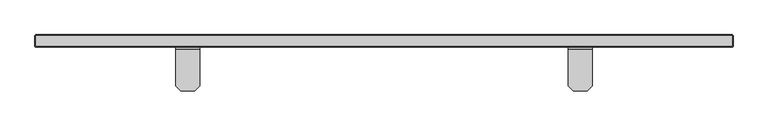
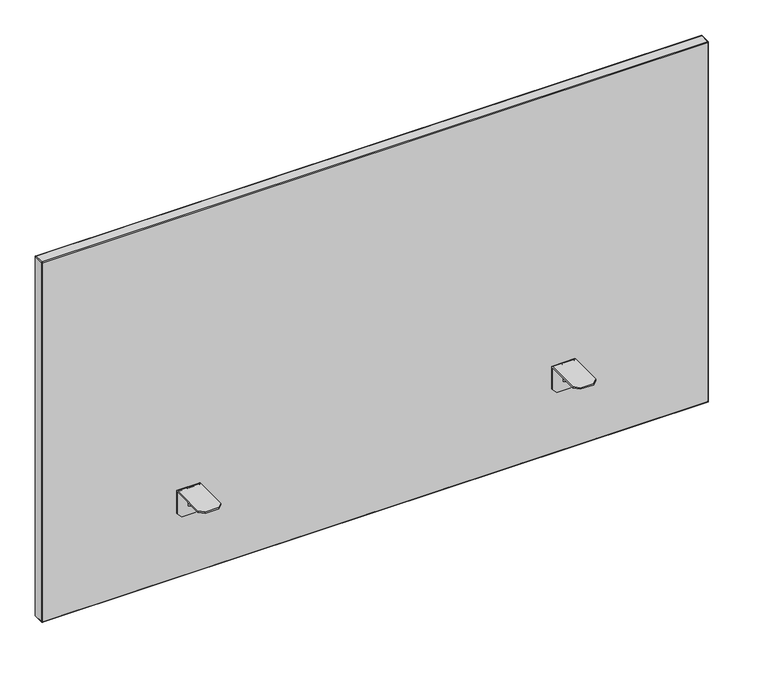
"""IFC4 building model written with IfcOpenShell, lengths in millimetres: furniture geometry, FREZZA_POP AD_Screen-for desk_Fabric : W1400 mm Structure_ZGBI - Embossed White & Finishing_D-King flex_XFGC."""

from ifc_helpers import new_model, si_unit, frame, origin, place, context, project, spatial, polyline, circle_curve, ellipse_curve, source, transform, mapped, element, save
from ifc_brep_helpers import plane_surface, cylinder_surface, revolved_surface, advanced_brep


def furniture_67f6b5ff(model_context):
    return source(origin(), model_context, "Body", "AdvancedBrep", [
        advanced_brep(
        [(1357.5, -8.0540949, 725.0), (1357.5, -81.55, 725.0), (1357.5, -81.55, 722.0), (1357.5, -8.0035457, 722.0), (1357.5, -6.55, 720.5464543), (1357.5, -6.55, 673.0), (1357.5, -3.55, 673.0), (1357.5, -3.55, 720.4959051), (1309.5, -8.0035457, 722.0), (1309.5, -81.55, 722.0), (1309.5, -81.55, 725.0), (1309.5, -8.0540949, 725.0), (1309.5, -3.55, 720.4959051), (1309.5, -3.55, 673.0), (1309.5, -6.55, 673.0), (1309.5, -6.55, 720.5464543), (1319.5, -91.55, 725.0), (1347.5, -91.55, 725.0), (1347.5, -3.55, 663.0), (1319.5, -3.55, 663.0), (1347.5, -6.55, 663.0), (1319.5, -6.55, 663.0), (1335.0, -6.55, 720.5464543), (1335.0, -6.55, 682.0), (1332.0, -6.55, 682.0), (1332.0, -6.55, 720.5464543), (1332.0, -8.0035457, 722.0), (1335.0, -8.0035457, 722.0), (1347.5, -91.55, 722.0), (1319.5, -91.55, 722.0), (1332.0, -69.55, 722.0), (1335.0, -69.55, 722.0)],
        [
            (0, 1),
            (1, 2),
            (2, 3),
            (3, 4, circle_curve(frame((1357.5, -8.0035457, 720.5464543), z_axis=(-1.0, 0.0, 0.0), x_axis=(0.0, -1.0, 0.0)), 1.4535457)),
            (4, 5),
            (5, 6),
            (6, 7),
            (7, 0, circle_curve(frame((1357.5, -8.0540949, 720.4959051), z_axis=(1.0, 0.0, 0.0), x_axis=(0.0, -1.0, 0.0)), 4.5040949)),
            (8, 9),
            (9, 10),
            (10, 11),
            (11, 12, circle_curve(frame((1309.5, -8.0540949, 720.4959051), z_axis=(-1.0, 0.0, 0.0), x_axis=(0.0, -1.0, 0.0)), 4.5040949)),
            (12, 13),
            (13, 14),
            (14, 15),
            (15, 8, circle_curve(frame((1309.5, -8.0035457, 720.5464543), z_axis=(1.0, 0.0, 0.0), x_axis=(0.0, -1.0, 0.0)), 1.4535457)),
            (10, 16),
            (16, 17),
            (17, 1),
            (0, 11),
            (7, 12),
            (6, 18),
            (18, 19),
            (19, 13),
            (18, 20),
            (20, 21),
            (21, 19),
            (4, 22),
            (22, 23),
            (23, 24),
            (24, 25),
            (25, 15),
            (14, 21),
            (20, 5),
            (25, 26, circle_curve(frame((1332.0, -8.0035457, 720.5464543), z_axis=(1.0, 0.0, 0.0), x_axis=(0.0, -1.0, 0.0)), 1.4535457)),
            (26, 8),
            (3, 27),
            (27, 22, circle_curve(frame((1335.0, -8.0035457, 720.5464543), z_axis=(-1.0, 0.0, 0.0), x_axis=(0.0, -1.0, 0.0)), 1.4535457)),
            (2, 28),
            (28, 29),
            (29, 9),
            (26, 30),
            (30, 31),
            (31, 27),
            (16, 29),
            (28, 17),
            (31, 23),
            (24, 30),
        ],
        [
            plane_surface(frame((1357.5, 1478.3708958, 725.0), z_axis=(1.0, 0.0, 0.0), x_axis=(0.0, 1.0, 0.0))),
            plane_surface(frame((1309.5, 1478.3708958, 725.0), z_axis=(-1.0, 0.0, 0.0), x_axis=(0.0, -1.0, 0.0))),
            plane_surface(frame((1357.5, -91.55, 725.0), z_axis=(0.0, 0.0, 1.0), x_axis=(-1.0, 0.0, 0.0))),
            cylinder_surface(frame((1309.5, -8.0540949, 720.4959051), z_axis=(1.0, 0.0, 0.0), x_axis=(0.0, -1.0, 0.0)), 4.5040949),
            plane_surface(frame((1357.5, -3.55, 720.4959051), z_axis=(0.0, 1.0, 0.0), x_axis=(-1.0, 0.0, 0.0))),
            plane_surface(frame((1357.5, -3.55, 663.0), z_axis=(0.0, 0.0, -1.0), x_axis=(-1.0, 0.0, 0.0))),
            plane_surface(frame((1357.5, -6.55, 663.0), z_axis=(0.0, -1.0, 0.0), x_axis=(-1.0, 0.0, 0.0))),
            revolved_surface(polyline([(1309.5, -9.4570914, 720.5464543), (1332.0, -9.4570914, 720.5464543)]), (1309.5, -8.0035457, 720.5464543), (-1.0, 0.0, 0.0)),
            revolved_surface(polyline([(1335.0, -9.4570914, 720.5464543), (1357.5, -9.4570914, 720.5464543)]), (1309.5, -8.0035457, 720.5464543), (-1.0, 0.0, 0.0)),
            plane_surface(frame((1357.5, -8.0035457, 722.0), z_axis=(0.0, 0.0, -1.0), x_axis=(-1.0, 0.0, 0.0))),
            plane_surface(frame((1357.5, -91.55, 722.0), z_axis=(0.0, -1.0, 0.0), x_axis=(-1.0, 0.0, 0.0))),
            plane_surface(frame((1357.5, -3.55, 673.0), z_axis=(0.7071067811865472, 0.0, -0.7071067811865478), x_axis=(0.0, -1.0, 0.0))),
            plane_surface(frame((1319.5, -3.55, 663.0), z_axis=(-0.7071067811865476, 0.0, -0.7071067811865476), x_axis=(0.0, -1.0, 0.0))),
            plane_surface(frame((1347.5, -91.55, 725.0), z_axis=(0.7071067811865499, -0.7071067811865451, 0.0), x_axis=(0.0, 0.0, -1.0))),
            plane_surface(frame((1309.5, -81.55, 725.0), z_axis=(-0.7071067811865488, -0.7071067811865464, 0.0), x_axis=(0.0, 0.0, -1.0))),
            plane_surface(frame((1335.0, -69.55, 722.0), z_axis=(1.0000000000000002, 0.0, 0.0), x_axis=(0.0, -0.8442128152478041, 0.5360081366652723))),
            plane_surface(frame((1332.0, -69.55, 722.0), z_axis=(-1.0000000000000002, 0.0, 0.0), x_axis=(0.0, 0.8442128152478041, -0.5360081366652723))),
            plane_surface(frame((1335.0, -6.55, 682.0), z_axis=(0.0, -0.5360081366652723, -0.8442128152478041), x_axis=(-1.0, 0.0, 0.0))),
        ],
        [
            (0, [[1, 2, 3, 4, 5, 6, 7, 8]]),
            (1, [[9, 10, 11, 12, 13, 14, 15, 16]]),
            (2, [[-11, 17, 18, 19, -1, 20]]),
            (3, [[21, -12, -20, -8]]),
            (4, [[-7, 22, 23, 24, -13, -21]]),
            (5, [[25, 26, 27, -23]]),
            (6, [[28, 29, 30, 31, 32, -15, 33, -26, 34, -5]]),
            (7, [[-32, 35, 36, -16]]),
            (8, [[37, 38, -28, -4]]),
            (9, [[39, 40, 41, -9, -36, 42, 43, 44, -37, -3]]),
            (10, [[45, -40, 46, -18]]),
            (11, [[-34, -25, -22, -6]]),
            (12, [[-24, -27, -33, -14]]),
            (13, [[-19, -46, -39, -2]]),
            (14, [[-41, -45, -17, -10]]),
            (15, [[-29, -38, -44, 47]]),
            (16, [[-42, -35, -31, 48]]),
            (17, [[-43, -48, -30, -47]]),
        ],
    ),
        advanced_brep(
        [(522.5, -8.0540949, 725.0), (522.5, -3.55, 720.4959051), (522.5, -3.55, 673.0), (522.5, -6.55, 673.0), (522.5, -6.55, 720.5464543), (522.5, -8.0035457, 722.0), (522.5, -81.55, 722.0), (522.5, -81.55, 725.0), (570.5, -8.0035457, 722.0), (570.5, -6.55, 720.5464543), (570.5, -6.55, 673.0), (570.5, -3.55, 673.0), (570.5, -3.55, 720.4959051), (570.5, -8.0540949, 725.0), (570.5, -81.55, 725.0), (570.5, -81.55, 722.0), (532.5, -91.55, 725.0), (560.5, -91.55, 725.0), (560.5, -3.55, 663.0), (532.5, -3.55, 663.0), (560.5, -6.55, 663.0), (532.5, -6.55, 663.0), (548.0, -6.55, 720.5464543), (548.0, -6.55, 682.0), (545.0, -6.55, 682.0), (545.0, -6.55, 720.5464543), (545.0, -8.0035457, 722.0), (548.0, -8.0035457, 722.0), (545.0, -69.55, 722.0), (548.0, -69.55, 722.0), (560.5, -91.55, 722.0), (532.5, -91.55, 722.0)],
        [
            (0, 1, circle_curve(frame((522.5, -8.0540949, 720.4959051), z_axis=(-1.0, 0.0, 0.0), x_axis=(0.0, -1.0, 0.0)), 4.5040949)),
            (1, 2),
            (2, 3),
            (3, 4),
            (4, 5, circle_curve(frame((522.5, -8.0035457, 720.5464543), z_axis=(1.0, 0.0, 0.0), x_axis=(0.0, -1.0, 0.0)), 1.4535457)),
            (5, 6),
            (6, 7),
            (7, 0),
            (8, 9, circle_curve(frame((570.5, -8.0035457, 720.5464543), z_axis=(-1.0, 0.0, 0.0), x_axis=(0.0, -1.0, 0.0)), 1.4535457)),
            (9, 10),
            (10, 11),
            (11, 12),
            (12, 13, circle_curve(frame((570.5, -8.0540949, 720.4959051), z_axis=(1.0, 0.0, 0.0), x_axis=(0.0, -1.0, 0.0)), 4.5040949)),
            (13, 14),
            (14, 15),
            (15, 8),
            (13, 0),
            (7, 16),
            (16, 17),
            (17, 14),
            (12, 1),
            (11, 18),
            (18, 19),
            (19, 2),
            (18, 20),
            (20, 21),
            (21, 19),
            (3, 21),
            (20, 10),
            (9, 22),
            (22, 23),
            (23, 24),
            (24, 25),
            (25, 4),
            (25, 26, circle_curve(frame((545.0, -8.0035457, 720.5464543), z_axis=(1.0, 0.0, 0.0), x_axis=(0.0, -1.0, 0.0)), 1.4535457)),
            (26, 5),
            (8, 27),
            (27, 22, circle_curve(frame((548.0, -8.0035457, 720.5464543), z_axis=(-1.0, 0.0, 0.0), x_axis=(0.0, -1.0, 0.0)), 1.4535457)),
            (26, 28),
            (28, 29),
            (29, 27),
            (15, 30),
            (30, 31),
            (31, 6),
            (16, 31),
            (30, 17),
            (24, 28),
            (29, 23),
        ],
        [
            plane_surface(frame((522.5, 1478.3708958, 725.0), z_axis=(-1.0, 0.0, 0.0), x_axis=(0.0, 1.0, 0.0))),
            plane_surface(frame((570.5, 1478.3708958, 725.0), z_axis=(1.0, 0.0, 0.0), x_axis=(0.0, -1.0, 0.0))),
            plane_surface(frame((522.5, -91.55, 725.0), z_axis=(0.0, 0.0, 1.0), x_axis=(1.0, 0.0, 0.0))),
            cylinder_surface(frame((570.5, -8.0540949, 720.4959051), z_axis=(-1.0, 0.0, 0.0), x_axis=(0.0, -1.0, 0.0)), 4.5040949),
            plane_surface(frame((522.5, -3.55, 720.4959051), z_axis=(0.0, 1.0, 0.0), x_axis=(1.0, 0.0, 0.0))),
            plane_surface(frame((522.5, -3.55, 663.0), z_axis=(0.0, 0.0, -1.0), x_axis=(1.0, 0.0, 0.0))),
            plane_surface(frame((522.5, -6.55, 663.0), z_axis=(0.0, -1.0, 0.0), x_axis=(1.0, 0.0, 0.0))),
            revolved_surface(polyline([(545.0, -9.4570914, 720.5464543), (522.5, -9.4570914, 720.5464543)]), (570.5, -8.0035457, 720.5464543), (1.0, 0.0, 0.0)),
            revolved_surface(polyline([(570.5, -9.4570914, 720.5464543), (548.0, -9.4570914, 720.5464543)]), (570.5, -8.0035457, 720.5464543), (1.0, 0.0, 0.0)),
            plane_surface(frame((522.5, -8.0035457, 722.0), z_axis=(0.0, 0.0, -1.0), x_axis=(1.0, 0.0, 0.0))),
            plane_surface(frame((522.5, -91.55, 722.0), z_axis=(0.0, -1.0, 0.0), x_axis=(1.0, 0.0, 0.0))),
            plane_surface(frame((522.5, -3.55, 673.0), z_axis=(-0.7071067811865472, 0.0, -0.7071067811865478), x_axis=(0.0, -1.0, 0.0))),
            plane_surface(frame((560.5, -3.55, 663.0), z_axis=(0.7071067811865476, 0.0, -0.7071067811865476), x_axis=(0.0, -1.0, 0.0))),
            plane_surface(frame((532.5, -91.55, 725.0), z_axis=(-0.7071067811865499, -0.7071067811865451, 0.0), x_axis=(0.0, 0.0, -1.0))),
            plane_surface(frame((570.5, -81.55, 725.0), z_axis=(0.7071067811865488, -0.7071067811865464, 0.0), x_axis=(0.0, 0.0, -1.0))),
            plane_surface(frame((545.0, -69.55, 722.0), z_axis=(-1.0000000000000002, 0.0, 0.0), x_axis=(0.0, -0.8442128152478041, 0.5360081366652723))),
            plane_surface(frame((548.0, -69.55, 722.0), z_axis=(1.0000000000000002, 0.0, 0.0), x_axis=(0.0, 0.8442128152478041, -0.5360081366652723))),
            plane_surface(frame((545.0, -6.55, 682.0), z_axis=(0.0, -0.5360081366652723, -0.8442128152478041), x_axis=(1.0, 0.0, 0.0))),
        ],
        [
            (0, [[1, 2, 3, 4, 5, 6, 7, 8]]),
            (1, [[9, 10, 11, 12, 13, 14, 15, 16]]),
            (2, [[17, -8, 18, 19, 20, -14]]),
            (3, [[-1, -17, -13, 21]]),
            (4, [[-21, -12, 22, 23, 24, -2]]),
            (5, [[-23, 25, 26, 27]]),
            (6, [[-4, 28, -26, 29, -10, 30, 31, 32, 33, 34]]),
            (7, [[-5, -34, 35, 36]]),
            (8, [[-9, 37, 38, -30]]),
            (9, [[-6, -36, 39, 40, 41, -37, -16, 42, 43, 44]]),
            (10, [[-19, 45, -43, 46]]),
            (11, [[-3, -24, -27, -28]]),
            (12, [[-11, -29, -25, -22]]),
            (13, [[-7, -44, -45, -18]]),
            (14, [[-15, -20, -46, -42]]),
            (15, [[47, -39, -35, -33]]),
            (16, [[48, -31, -38, -41]]),
            (17, [[-47, -32, -48, -40]]),
        ],
    ),
        advanced_brep(
        [(1638.0, 21.45, 1326.0), (1638.0, 21.45, 530.0), (242.0, 21.45, 530.0), (242.0, 21.45, 1326.0), (1638.0, -3.55, 530.0), (1638.0, -3.55, 1326.0), (242.0, -3.55, 1326.0), (242.0, -3.55, 530.0), (1638.0, -1.55, 528.0), (242.0, -1.55, 528.0), (242.0, 4.45, 528.0), (1638.0, 4.45, 528.0), (242.0, 19.45, 528.0), (1638.0, 19.45, 528.0), (1638.0, 13.45, 528.0), (242.0, 13.45, 528.0), (240.0, 19.45, 530.0), (240.0, -1.55, 530.0), (240.0, -1.55, 1326.0), (240.0, 19.45, 1326.0), (242.0, 19.45, 1328.0), (242.0, -1.55, 1328.0), (1638.0, -1.55, 1328.0), (1638.0, 19.45, 1328.0), (1640.0, 19.45, 1326.0), (1640.0, -1.55, 1326.0), (1640.0, -1.55, 530.0), (1640.0, 19.45, 530.0), (240.5857864, 20.8642136, 1327.4142136), (240.5857864, -2.9642136, 1327.4142136), (240.5857864, 20.8642136, 528.5857864), (240.5857864, -2.9642136, 528.5857864), (1639.4142136, 20.8642136, 1327.4142136), (1639.4142136, -2.9642136, 1327.4142136), (1639.4142136, -2.9642136, 528.5857864), (1639.4142136, 20.8642136, 528.5857864), (242.0, 4.45, 532.0), (242.0, 13.45, 532.0), (1638.0, 4.45, 532.0), (1638.0, 13.45, 532.0)],
        [
            (0, 1),
            (1, 2),
            (2, 3),
            (3, 0),
            (4, 5),
            (5, 6),
            (6, 7),
            (7, 4),
            (8, 9),
            (9, 10),
            (10, 11),
            (11, 8),
            (12, 13),
            (13, 14),
            (14, 15),
            (15, 12),
            (16, 17),
            (17, 18),
            (18, 19),
            (19, 16),
            (20, 21),
            (21, 22),
            (22, 23),
            (23, 20),
            (24, 25),
            (25, 26),
            (26, 27),
            (27, 24),
            (20, 28, ellipse_curve(frame((242.0, 19.45, 1326.0), z_axis=(-0.7071067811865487, -0.7071067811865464, 0.0), x_axis=(-0.7071067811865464, 0.7071067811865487, 0.0)), 2.8284271, 2.0)),
            (28, 19, ellipse_curve(frame((242.0, 19.45, 1326.0), z_axis=(0.0, -0.7071067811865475, 0.7071067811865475), x_axis=(0.0, 0.7071067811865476, 0.7071067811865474)), 2.8284271, 2.0)),
            (18, 29, ellipse_curve(frame((242.0, -1.55, 1326.0), z_axis=(0.0, 0.7071067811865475, 0.7071067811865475), x_axis=(0.0, 0.7071067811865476, -0.7071067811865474)), 2.8284271, 2.0)),
            (29, 21, ellipse_curve(frame((242.0, -1.55, 1326.0), z_axis=(-0.7071067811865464, 0.7071067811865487, 0.0), x_axis=(0.7071067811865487, 0.7071067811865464, 0.0)), 2.8284271, 2.0)),
            (16, 30, ellipse_curve(frame((242.0, 19.45, 530.0), z_axis=(0.0, -0.7071067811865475, -0.7071067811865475), x_axis=(0.0, 0.7071067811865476, -0.7071067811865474)), 2.8284271, 2.0)),
            (30, 12, ellipse_curve(frame((242.0, 19.45, 530.0), z_axis=(-0.7071067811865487, -0.7071067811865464, 0.0), x_axis=(-0.7071067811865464, 0.7071067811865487, 0.0)), 2.8284271, 2.0)),
            (15, 10),
            (9, 31, ellipse_curve(frame((242.0, -1.55, 530.0), z_axis=(-0.7071067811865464, 0.7071067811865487, 0.0), x_axis=(0.7071067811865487, 0.7071067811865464, 0.0)), 2.8284271, 2.0)),
            (31, 17, ellipse_curve(frame((242.0, -1.55, 530.0), z_axis=(0.0, 0.7071067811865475, -0.7071067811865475), x_axis=(0.0, 0.7071067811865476, 0.7071067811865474)), 2.8284271, 2.0)),
            (24, 32, ellipse_curve(frame((1638.0, 19.45, 1326.0), z_axis=(0.0, -0.7071067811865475, 0.7071067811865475), x_axis=(0.0, 0.7071067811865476, 0.7071067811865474)), 2.8284271, 2.0)),
            (32, 23, ellipse_curve(frame((1638.0, 19.45, 1326.0), z_axis=(0.7071067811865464, -0.7071067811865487, 0.0), x_axis=(0.7071067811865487, 0.7071067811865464, 0.0)), 2.8284271, 2.0)),
            (22, 33, ellipse_curve(frame((1638.0, -1.55, 1326.0), z_axis=(0.7071067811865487, 0.7071067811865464, 0.0), x_axis=(-0.7071067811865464, 0.7071067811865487, 0.0)), 2.8284271, 2.0)),
            (33, 25, ellipse_curve(frame((1638.0, -1.55, 1326.0), z_axis=(0.0, 0.7071067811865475, 0.7071067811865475), x_axis=(0.0, 0.7071067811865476, -0.7071067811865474)), 2.8284271, 2.0)),
            (26, 34, ellipse_curve(frame((1638.0, -1.55, 530.0), z_axis=(0.0, 0.7071067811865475, -0.7071067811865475), x_axis=(0.0, 0.7071067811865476, 0.7071067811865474)), 2.8284271, 2.0)),
            (34, 8, ellipse_curve(frame((1638.0, -1.55, 530.0), z_axis=(0.7071067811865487, 0.7071067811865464, 0.0), x_axis=(-0.7071067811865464, 0.7071067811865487, 0.0)), 2.8284271, 2.0)),
            (11, 14),
            (13, 35, ellipse_curve(frame((1638.0, 19.45, 530.0), z_axis=(0.7071067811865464, -0.7071067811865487, 0.0), x_axis=(0.7071067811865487, 0.7071067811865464, 0.0)), 2.8284271, 2.0)),
            (35, 27, ellipse_curve(frame((1638.0, 19.45, 530.0), z_axis=(0.0, -0.7071067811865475, -0.7071067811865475), x_axis=(0.0, 0.7071067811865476, -0.7071067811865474)), 2.8284271, 2.0)),
            (4, 34, ellipse_curve(frame((1638.0, -1.55, 530.0), z_axis=(0.7071067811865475, 0.0, 0.7071067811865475), x_axis=(0.7071067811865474, 0.0, -0.7071067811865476)), 2.8284271, 2.0)),
            (33, 5, ellipse_curve(frame((1638.0, -1.55, 1326.0), z_axis=(0.7071067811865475, 0.0, -0.7071067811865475), x_axis=(-0.7071067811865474, 0.0, -0.7071067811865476)), 2.8284271, 2.0)),
            (35, 1, ellipse_curve(frame((1638.0, 19.45, 530.0), z_axis=(0.7071067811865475, 0.0, 0.7071067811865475), x_axis=(0.7071067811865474, 0.0, -0.7071067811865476)), 2.8284271, 2.0)),
            (0, 32, ellipse_curve(frame((1638.0, 19.45, 1326.0), z_axis=(0.7071067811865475, 0.0, -0.7071067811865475), x_axis=(-0.7071067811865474, 0.0, -0.7071067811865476)), 2.8284271, 2.0)),
            (7, 31, ellipse_curve(frame((242.0, -1.55, 530.0), z_axis=(0.7071067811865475, 0.0, -0.7071067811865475), x_axis=(-0.7071067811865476, 0.0, -0.7071067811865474)), 2.8284271, 2.0)),
            (30, 2, ellipse_curve(frame((242.0, 19.45, 530.0), z_axis=(0.7071067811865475, 0.0, -0.7071067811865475), x_axis=(-0.7071067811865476, 0.0, -0.7071067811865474)), 2.8284271, 2.0)),
            (6, 29, ellipse_curve(frame((242.0, -1.55, 1326.0), z_axis=(-0.7071067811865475, 0.0, -0.7071067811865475), x_axis=(-0.7071067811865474, 0.0, 0.7071067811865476)), 2.8284271, 2.0)),
            (28, 3, ellipse_curve(frame((242.0, 19.45, 1326.0), z_axis=(-0.7071067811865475, 0.0, -0.7071067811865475), x_axis=(-0.7071067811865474, 0.0, 0.7071067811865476)), 2.8284271, 2.0)),
            (36, 10),
            (15, 37),
            (37, 36),
            (38, 39),
            (39, 14),
            (11, 38),
            (37, 39),
            (38, 36),
        ],
        [
            plane_surface(frame((242.0, 21.45, 528.0), z_axis=(0.0, 1.0, 0.0), x_axis=(-1.0, 0.0, 0.0))),
            plane_surface(frame((242.0, -3.55, 528.0), z_axis=(0.0, -1.0, 0.0), x_axis=(1.0, 0.0, 0.0))),
            plane_surface(frame((1638.0, 21.45, 528.0), z_axis=(0.0, 0.0, -1.0), x_axis=(0.0, -1.0, 0.0))),
            plane_surface(frame((240.0, 21.45, 530.0), z_axis=(-1.0, 0.0, 0.0), x_axis=(0.0, -1.0, 0.0))),
            plane_surface(frame((242.0, 21.45, 1328.0), z_axis=(0.0, 0.0, 1.0), x_axis=(0.0, -1.0, 0.0))),
            plane_surface(frame((1640.0, 21.45, 1326.0), z_axis=(1.0, 0.0, 0.0), x_axis=(0.0, -1.0, 0.0))),
            cylinder_surface(frame((242.0, -3.55, 1326.0), z_axis=(0.0, 1.0, 0.0), x_axis=(-1.0, 0.0, 0.0)), 2.0),
            cylinder_surface(frame((242.0, -3.55, 530.0), z_axis=(0.0, 1.0, 0.0), x_axis=(-1.0, 0.0, 0.0)), 2.0),
            cylinder_surface(frame((1638.0, -3.55, 1326.0), z_axis=(0.0, 1.0, 0.0), x_axis=(-1.0, 0.0, 0.0)), 2.0),
            cylinder_surface(frame((1638.0, -3.55, 530.0), z_axis=(0.0, 1.0, 0.0), x_axis=(-1.0, 0.0, 0.0)), 2.0),
            cylinder_surface(frame((1638.0, -1.55, 1328.0), z_axis=(0.0, 0.0, -1.0), x_axis=(-1.0, 0.0, 0.0)), 2.0),
            cylinder_surface(frame((1638.0, 19.45, 1328.0), z_axis=(0.0, 0.0, -1.0), x_axis=(-1.0, 0.0, 0.0)), 2.0),
            cylinder_surface(frame((1640.0, -1.55, 530.0), z_axis=(-1.0, 0.0, 0.0), x_axis=(0.0, 0.0, 1.0)), 2.0),
            cylinder_surface(frame((1640.0, 19.45, 530.0), z_axis=(-1.0, 0.0, 0.0), x_axis=(0.0, 0.0, 1.0)), 2.0),
            cylinder_surface(frame((242.0, -1.55, 528.0), z_axis=(0.0, 0.0, 1.0), x_axis=(1.0, 0.0, 0.0)), 2.0),
            cylinder_surface(frame((242.0, 19.45, 528.0), z_axis=(0.0, 0.0, 1.0), x_axis=(1.0, 0.0, 0.0)), 2.0),
            cylinder_surface(frame((240.0, -1.55, 1326.0), z_axis=(1.0, 0.0, 0.0), x_axis=(0.0, 0.0, -1.0)), 2.0),
            cylinder_surface(frame((240.0, 19.45, 1326.0), z_axis=(1.0, 0.0, 0.0), x_axis=(0.0, 0.0, -1.0)), 2.0),
            plane_surface(frame((242.0, 4.45, 532.0), z_axis=(1.0, 0.0, 0.0), x_axis=(0.0, 1.0, 0.0))),
            plane_surface(frame((1638.0, 4.45, 532.0), z_axis=(-1.0, 0.0, 0.0), x_axis=(0.0, -1.0, 0.0))),
            plane_surface(frame((242.0, 4.45, 532.0), z_axis=(0.0, 0.0, -1.0), x_axis=(1.0, 0.0, 0.0))),
            plane_surface(frame((242.0, 13.45, 532.0), z_axis=(0.0, -1.0, 0.0), x_axis=(1.0, 0.0, 0.0))),
            plane_surface(frame((242.0, 4.45, 528.0), z_axis=(0.0, 1.0, 0.0), x_axis=(1.0, 0.0, 0.0))),
        ],
        [
            (0, [[1, 2, 3, 4]]),
            (1, [[5, 6, 7, 8]]),
            (2, [[9, 10, 11, 12]]),
            (2, [[13, 14, 15, 16]]),
            (3, [[17, 18, 19, 20]]),
            (4, [[21, 22, 23, 24]]),
            (5, [[25, 26, 27, 28]]),
            (6, [[-21, 29, 30, -19, 31, 32]]),
            (7, [[-17, 33, 34, -16, 35, -10, 36, 37]]),
            (8, [[-25, 38, 39, -23, 40, 41]]),
            (9, [[-27, 42, 43, -12, 44, -14, 45, 46]]),
            (10, [[47, -42, -26, -41, 48, -5]]),
            (11, [[49, -1, 50, -38, -28, -46]]),
            (12, [[-47, -8, 51, -36, -9, -43]]),
            (13, [[-49, -45, -13, -34, 52, -2]]),
            (14, [[-51, -7, 53, -31, -18, -37]]),
            (15, [[-52, -33, -20, -30, 54, -3]]),
            (16, [[-53, -6, -48, -40, -22, -32]]),
            (17, [[-54, -29, -24, -39, -50, -4]]),
            (18, [[55, -35, 56, 57]]),
            (19, [[58, 59, -44, 60]]),
            (20, [[-57, 61, -58, 62]]),
            (21, [[-56, -15, -59, -61]]),
            (22, [[-55, -62, -60, -11]]),
        ],
    ),
    ])


if __name__ == "__main__":
    model = new_model("IFC4")
    model_context = context("Model", 3, world=origin())
    ifc_project = project(units=[si_unit("LENGTHUNIT", "METRE", prefix="MILLI")], contexts=[model_context])
    site = spatial("IfcSite", under=ifc_project)
    building = spatial("IfcBuilding", under=site)
    placement = place(None, origin())
    furniture_shape = furniture_67f6b5ff(model_context)
    element("IfcFurniture", 1, ObjectType="FREZZA_POP AD_Screen-for desk_Fabric : W1400 mm Structure_ZGBI - Embossed White & Finishing_D-King flex_XFGC", at=placement, inside=building, context=model_context, shape_type="MappedRepresentation", body=[
        mapped(furniture_shape, transform((0.0, 0.0, 0.0), x_axis=(1.0, 0.0, 0.0), y_axis=(0.0, 1.0, 0.0), z_axis=(0.0, 0.0, 1.0))),
    ])
    save(model, "model.ifc")
